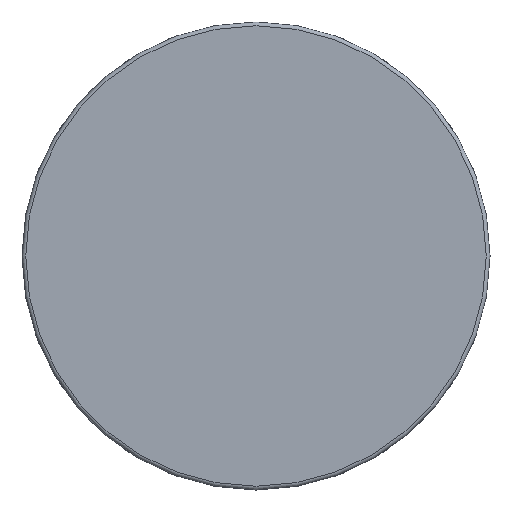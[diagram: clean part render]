
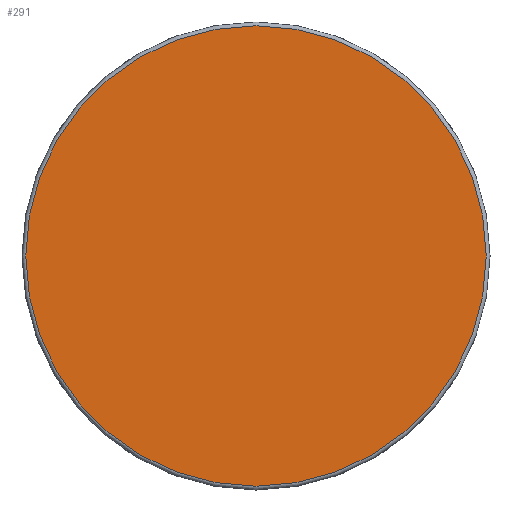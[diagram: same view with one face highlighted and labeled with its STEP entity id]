
A CAD part, front view. The second image highlights one B-rep face of the part: STEP entity #291.
In plain terms, the highlighted planar face has unit normal (0, -1, 0).
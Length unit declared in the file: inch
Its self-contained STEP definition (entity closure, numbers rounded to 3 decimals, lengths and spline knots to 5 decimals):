
#18=PLANE('',#331);
#51=FACE_OUTER_BOUND('',#68,.T.);
#68=EDGE_LOOP('',(#215,#216));
#86=CIRCLE('',#323,0.365);
#90=CIRCLE('',#327,0.365);
#124=VERTEX_POINT('',#576);
#125=VERTEX_POINT('',#577);
#157=EDGE_CURVE('',#124,#125,#86,.T.);
#161=EDGE_CURVE('',#125,#124,#90,.T.);
#215=ORIENTED_EDGE('',*,*,#157,.F.);
#216=ORIENTED_EDGE('',*,*,#161,.F.);
#291=ADVANCED_FACE('',(#51),#18,.T.);
#323=AXIS2_PLACEMENT_3D('',#578,#382,#383);
#327=AXIS2_PLACEMENT_3D('',#584,#390,#391);
#331=AXIS2_PLACEMENT_3D('',#591,#399,#400);
#382=DIRECTION('center_axis',(0.,1.,0.));
#383=DIRECTION('ref_axis',(0.,0.,1.));
#390=DIRECTION('center_axis',(0.,1.,0.));
#391=DIRECTION('ref_axis',(0.,0.,1.));
#399=DIRECTION('center_axis',(0.,-1.,0.));
#400=DIRECTION('ref_axis',(0.,0.,-1.));
#576=CARTESIAN_POINT('',(0.,0.,-0.365));
#577=CARTESIAN_POINT('',(0.,0.,0.365));
#578=CARTESIAN_POINT('Origin',(0.,0.,0.));
#584=CARTESIAN_POINT('Origin',(0.,0.,0.));
#591=CARTESIAN_POINT('Origin',(0.,0.,0.));
